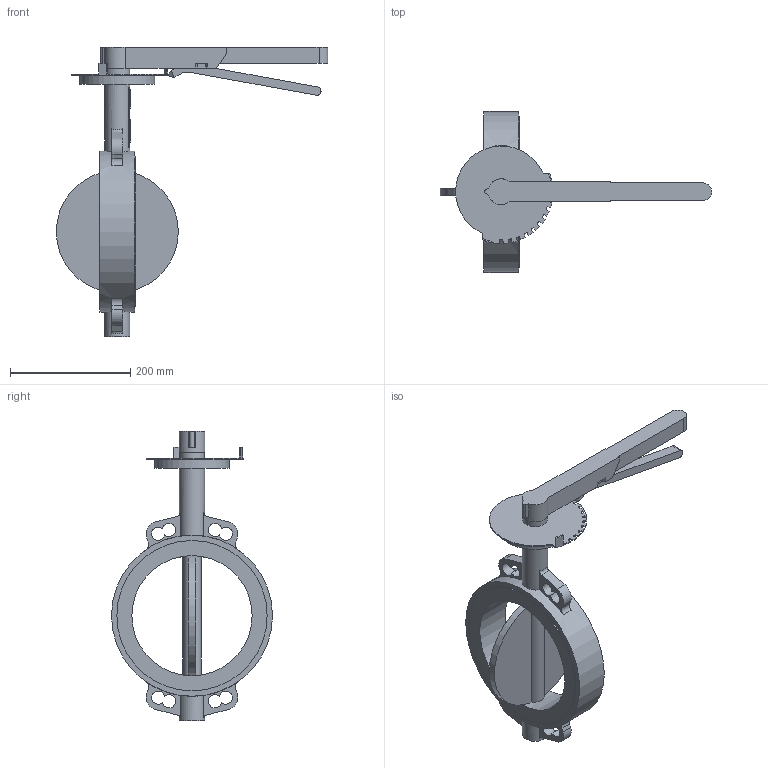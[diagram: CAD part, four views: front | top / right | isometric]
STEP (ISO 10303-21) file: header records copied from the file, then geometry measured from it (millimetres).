
FILE_DESCRIPTION(('STEP AP203'), '1');
FILE_NAME('青蜮铕 017WDN200', '', ('UNSPECIFIED'), ('UNSPECIFIED'), 'ASCON STEP Converter 1.6', 'ASCON Math Kernel', '');
FILE_SCHEMA(('CONFIG_CONTROL_DESIGN'));
Length unit declared in the file: millimetre
Bounding box: 451.5 x 268 x 482 mm (x, y, z)
Volume: 475921.3 mm3; surface area: 385000.8 mm2
Topology: 1 solids, 2 shells, 774 faces, 2283 edges, 1475 vertices
Faces by surface type: cylinder 535, plane 233, bspline 6
Full cylindrical faces by diameter (mm): 12 x4, 22.1 x1, 41 x1, 42 x2, 70 x1, 125 x1, 200 x1, 250 x2, 268 x1
Entity records: 34029 total; most frequent: CARTESIAN_POINT 6191, DIRECTION 4896, ORIENTED_EDGE 4477, EDGE_CURVE 2270, AXIS2_PLACEMENT_3D 1895, VERTEX_POINT 1475, CIRCLE 1126, LINE 1106
